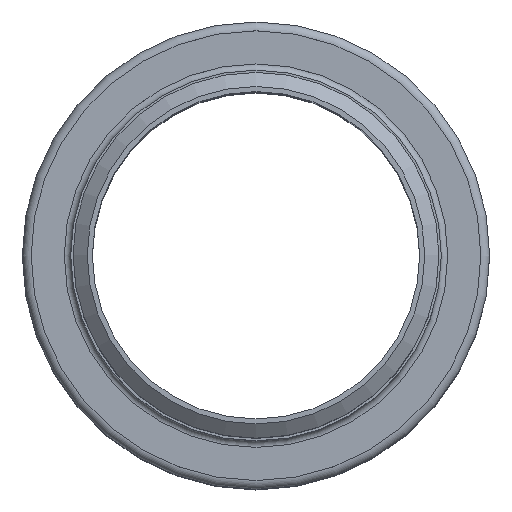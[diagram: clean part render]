
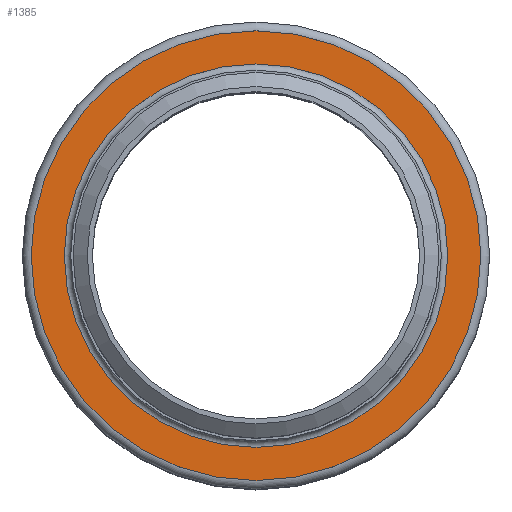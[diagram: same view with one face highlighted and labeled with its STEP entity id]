
A CAD part, top view. The second image highlights one B-rep face of the part: STEP entity #1385.
In plain terms, the highlighted planar face has unit normal (0, 0, 1).
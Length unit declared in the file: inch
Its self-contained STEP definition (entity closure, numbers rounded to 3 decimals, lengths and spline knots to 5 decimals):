
#155=FACE_BOUND('',#416,.T.);
#256=FACE_OUTER_BOUND('',#415,.T.);
#415=EDGE_LOOP('',(#1168));
#416=EDGE_LOOP('',(#1169));
#584=CIRCLE('',#1684,2.35875);
#585=CIRCLE('',#1686,2.76625);
#703=VERTEX_POINT('',#2631);
#704=VERTEX_POINT('',#2635);
#862=EDGE_CURVE('',#703,#703,#584,.T.);
#863=EDGE_CURVE('',#704,#704,#585,.T.);
#1168=ORIENTED_EDGE('',*,*,#863,.F.);
#1169=ORIENTED_EDGE('',*,*,#862,.T.);
#1284=PLANE('',#1685);
#1385=ADVANCED_FACE('',(#256,#155),#1284,.T.);
#1684=AXIS2_PLACEMENT_3D('',#2633,#2197,#2198);
#1685=AXIS2_PLACEMENT_3D('',#2634,#2199,#2200);
#1686=AXIS2_PLACEMENT_3D('',#2636,#2201,#2202);
#2197=DIRECTION('center_axis',(0.,0.,-1.));
#2198=DIRECTION('ref_axis',(1.,0.,0.));
#2199=DIRECTION('center_axis',(0.,0.,1.));
#2200=DIRECTION('ref_axis',(1.,0.,0.));
#2201=DIRECTION('center_axis',(0.,0.,-1.));
#2202=DIRECTION('ref_axis',(1.,0.,0.));
#2631=CARTESIAN_POINT('',(2.35875,0.,-0.07875));
#2633=CARTESIAN_POINT('Origin',(0.,0.,-0.07875));
#2634=CARTESIAN_POINT('Origin',(0.,2.76625,-0.07875));
#2635=CARTESIAN_POINT('',(2.76625,0.,-0.07875));
#2636=CARTESIAN_POINT('Origin',(0.,0.,-0.07875));
